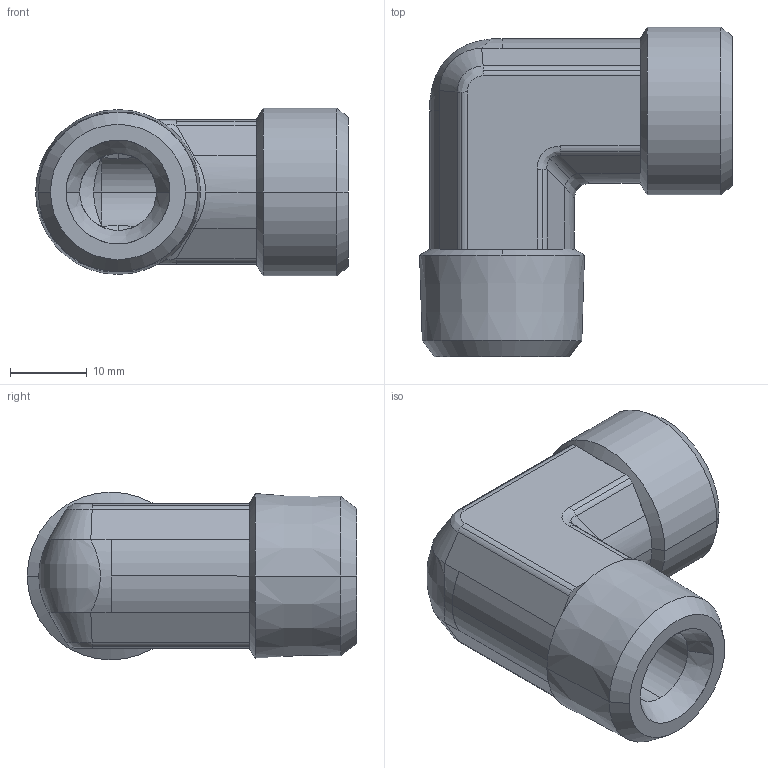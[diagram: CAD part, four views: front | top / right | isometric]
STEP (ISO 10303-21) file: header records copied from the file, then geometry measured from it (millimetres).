
FILE_DESCRIPTION((''),'2;1');
FILE_NAME('102018.stp','2007-10-30T16:27:45',(''),(''),'AutoCAD STEP 2000i','AutoCAD 2000i',', , ');
FILE_SCHEMA(('CONFIG_CONTROL_DESIGN'));
Length unit declared in the file: millimetre
Products named in the file (2): 102018.0; 3090#0
Assembly tree (1 placements, depth 2):
  102018.0
    3090#0
Bounding box: 40.73 x 42.92 x 21.85 mm (x, y, z)
Volume: 13993.4 mm3; surface area: 6469.3 mm2
Topology: 1 solids, 1 shells, 104 faces, 238 edges, 137 vertices
Faces by surface type: cylinder 42, plane 25, cone 23, bspline 14
Entity records: 3778 total; most frequent: CARTESIAN_POINT 1323, DIRECTION 529, ORIENTED_EDGE 476, EDGE_CURVE 238, AXIS2_PLACEMENT_3D 219, VERTEX_POINT 137, CIRCLE 109, EDGE_LOOP 107
